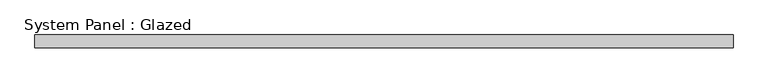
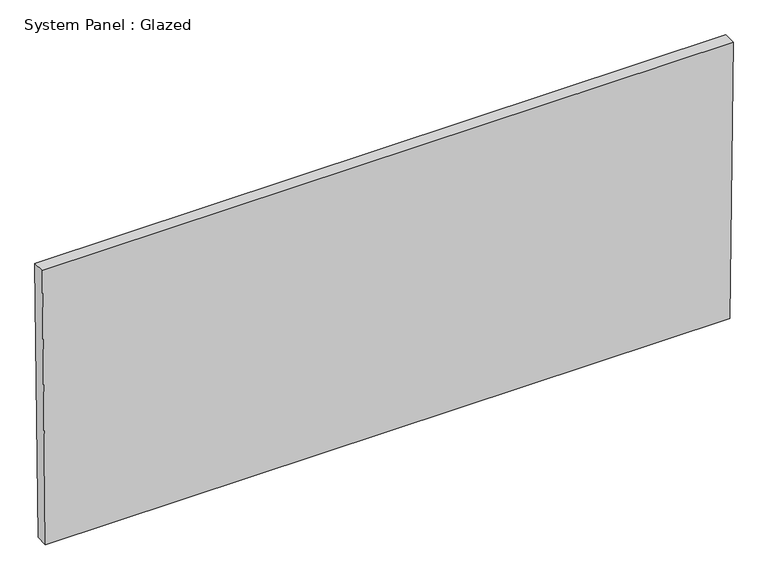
"""IFC4 building model written with IfcOpenShell, lengths in millimetres: plate geometry, System Panel : Glazed."""

from ifc_helpers import new_model, si_unit, frame, origin, place, context, project, spatial, polyline, outline, extrude, source, transform, mapped, element, save


def system_panel_glazed_baaa3bb5(model_context):
    return source(origin(), model_context, "Body", "SweptSolid", [
        extrude(outline(polyline([(0.0, -686.8768641), (0.0, 686.8768641), (584.1618488, 693.4126871), (584.1618488, -693.4126871), (0.0, -686.8768641)])), frame((0.0, -44.45, 0.0), z_axis=(0.0, 1.0, 0.0), x_axis=(0.0, 0.0, 1.0)), (0.0, 0.0, 1.0), 25.4),
    ])


if __name__ == "__main__":
    model = new_model("IFC4")
    model_context = context("Model", 3, world=origin())
    ifc_project = project(units=[si_unit("LENGTHUNIT", "METRE", prefix="MILLI")], contexts=[model_context])
    site = spatial("IfcSite", under=ifc_project)
    building = spatial("IfcBuilding", under=site)
    placement = place(None, origin())
    system_panel_glazed_shape = system_panel_glazed_baaa3bb5(model_context)
    element("IfcPlate", 1, ObjectType="System Panel : Glazed", at=placement, inside=building, context=model_context, shape_type="MappedRepresentation", body=[
        mapped(system_panel_glazed_shape, transform((0.0, 0.0, 0.0), x_axis=(1.0, 0.0, 0.0), y_axis=(0.0, 1.0, 0.0), z_axis=(0.0, 0.0, 1.0))),
    ])
    save(model, "model.ifc")
